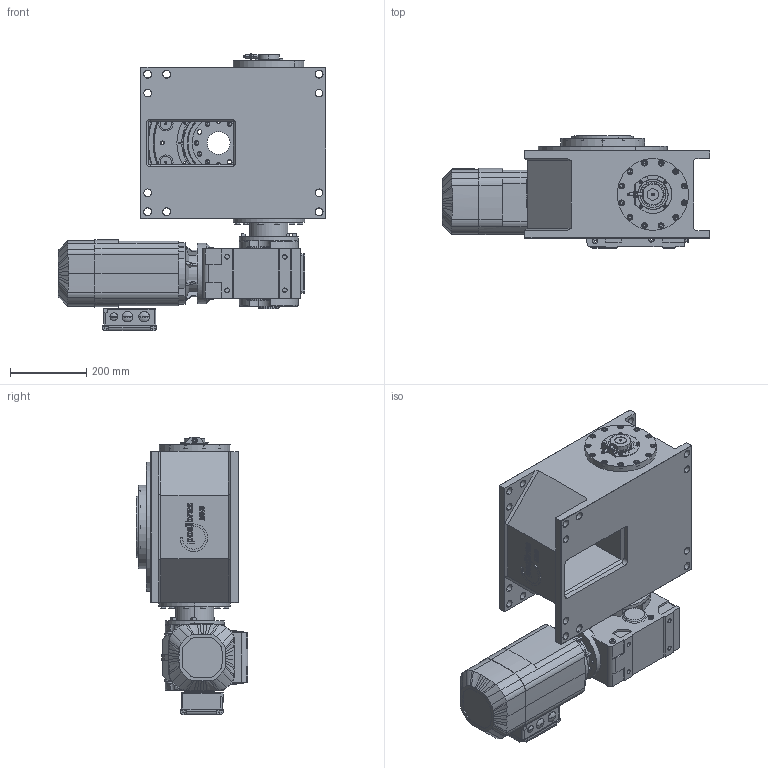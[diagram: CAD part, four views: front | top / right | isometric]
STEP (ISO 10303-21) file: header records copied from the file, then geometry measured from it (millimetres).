
FILE_DESCRIPTION (( 'STEP AP214' ), '1' );
FILE_NAME ('M340_SEW_KA67DRS71S4_D1_09.STEP', '2020-06-17T12:27:20', ( '' ), ( '' ), 'SwSTEP 2.0', 'SolidWorks 2020', '' );
FILE_SCHEMA (( 'AUTOMOTIVE_DESIGN' ));
Length unit declared in the file: millimetre
Products named in the file (1): M340_SEW_KA67DRS71S4_D1_09
Bounding box: 704.5 x 294 x 728.97 mm (x, y, z)
Surface area: 1744814.4 mm2 (no closed solid volume)
Topology: 0 solids, 114 shells, 1772 faces, 5387 edges, 3602 vertices
Faces by surface type: plane 828, cylinder 527, cone 201, torus 106, bspline 104, sphere 6
Entity records: 88013 total; most frequent: CARTESIAN_POINT 20870, DIRECTION 10064, ORIENTED_EDGE 9014, EDGE_CURVE 5347, VERTEX_POINT 3602, AXIS2_PLACEMENT_3D 3572, LINE 2920, VECTOR 2920
